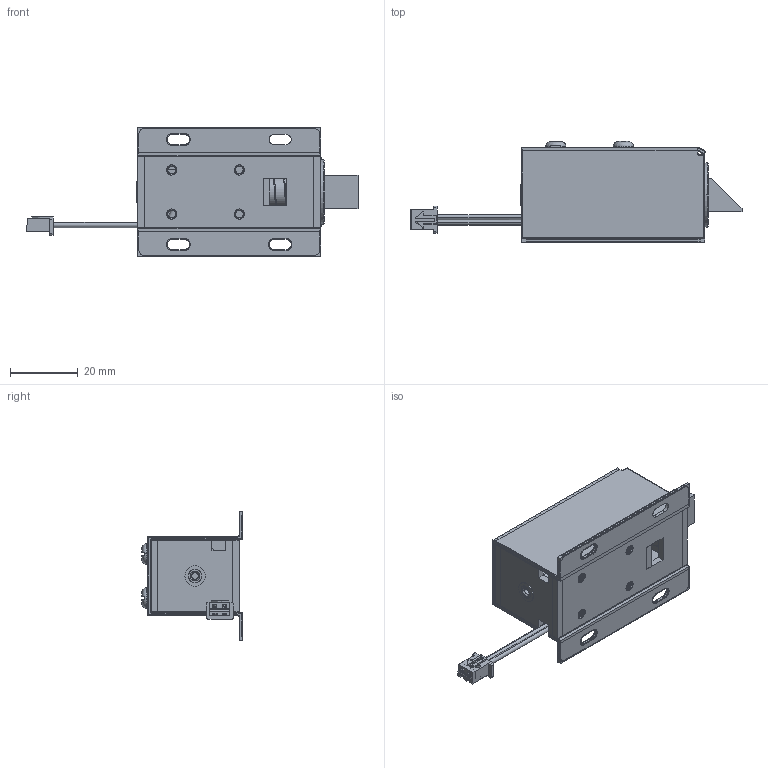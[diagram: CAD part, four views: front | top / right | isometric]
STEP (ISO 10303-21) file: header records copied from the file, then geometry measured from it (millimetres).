
FILE_DESCRIPTION((''),'2;1');
FILE_NAME('LY-03A0001_ASM','2025-02-12T11:31:47',('PRIME'),(''),'CREO PARAMETRIC BY PTC INC, 2023073','CREO PARAMETRIC BY PTC INC, 2023073','');
FILE_SCHEMA(('CONFIG_CONTROL_DESIGN'));
Length unit declared in the file: millimetre
Products named in the file (14): _LY03A00; _LY03A000; E-LY03A0001; _LY03A0009; M3-500; 0001; LY-03A0001_ASM
Assembly tree (14 placements, depth 2):
  LY-03A0001_ASM
    _LY03A00
    _LY03A00
    _LY03A00
    _LY03A00
    _LY03A000
    _LY03A00
    _LY03A000
    E-LY03A0001
    _LY03A000
    _LY03A0009
    _LY03A00
    M3-500  x2
    0001
Bounding box: 98 x 29.8 x 38 mm (x, y, z)
Volume: 16244.1 mm3; surface area: 120604.1 mm2
Topology: 15 solids, 40 shells, 1419 faces, 3637 edges, 2346 vertices
Faces by surface type: plane 658, cylinder 547, torus 99, bspline 71, cone 26, sphere 14, revolution 4
Entity records: 48407 total; most frequent: CARTESIAN_POINT 14165, DIRECTION 7201, ORIENTED_EDGE 6906, EDGE_CURVE 3464, AXIS2_PLACEMENT_3D 2566, VERTEX_POINT 2240, VECTOR 2067, LINE 2067
